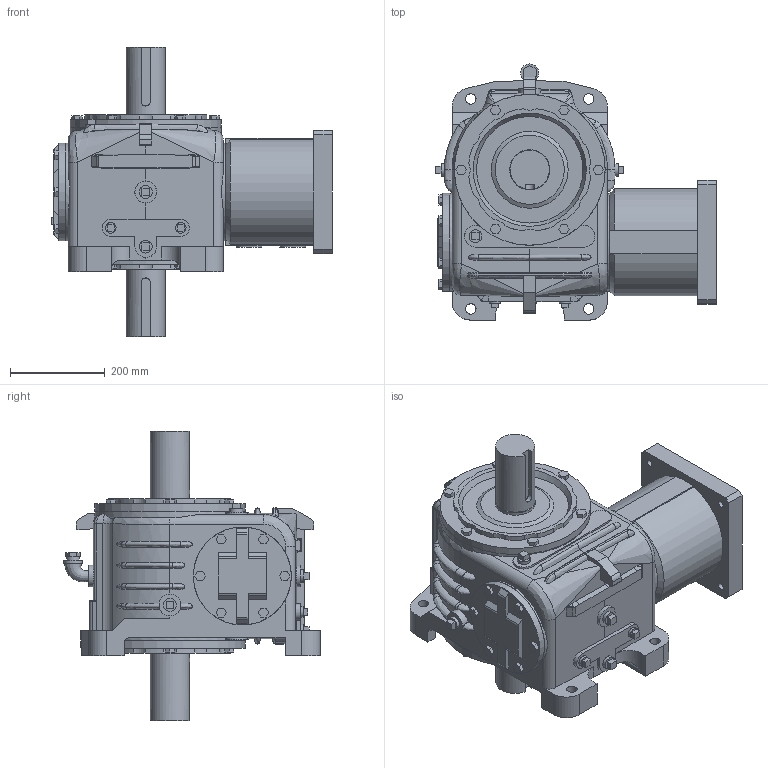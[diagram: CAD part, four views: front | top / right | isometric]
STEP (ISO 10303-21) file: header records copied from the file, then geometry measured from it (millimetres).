
FILE_DESCRIPTION(/* description */ ('Unknown'),/* implementation_level */ '2;1');
FILE_NAME(/* name */ 'V60CB-7CR11SBD-',/* time_stamp */ '2024-11-21T11:47:23-05:00',/* author */ ('Unknown'),/* organization */ ('Unknown'),/* preprocessor_version */ 'ST-DEVELOPER v19.4',/* originating_system */ 'Solid Edge',/* authorisation */ 'Unknown');
FILE_SCHEMA (('AUTOMOTIVE_DESIGN {1 0 10303 214 3 1 1}'));
Length unit declared in the file: millimetre
Products named in the file (7): V60CB-7CR11SBD-; 60-5-CP; 60-OUTS; 60-WCAP; 60-SM20-CP; MP4R-11-CP; KM600-S-48
Assembly tree (7 placements, depth 2):
  V60CB-7CR11SBD-
    60-5-CP
    60-OUTS  x2
    60-WCAP
    60-SM20-CP
    MP4R-11-CP
    KM600-S-48
Bounding box: 590.53 x 539.14 x 609.65 mm (x, y, z)
Volume: 42812317.3 mm3; surface area: 2111669.5 mm2
Topology: 7 solids, 7 shells, 719 faces, 1788 edges, 1166 vertices
Faces by surface type: plane 426, cylinder 181, bspline 103, cone 9
Full cylindrical faces by diameter (mm): 0.254 x9, 12.7 x8, 13.835 x4, 19.05 x6, 22 x4, 22.225 x2, 26.924 x6, 38.1 x1, 44.437 x1, 44.45 x1, 45.72 x4, 46.038 x1, 82.537 x2, 84.138 x2, 94.5 x1, 98.425 x1, 122 x1, 127 x1, 127.508 x1, 139 x1, 155.575 x1, 199.998 x1, 200 x1, 206.248 x3, 209.55 x1, 250 x1, 317.5 x4
Entity records: 26307 total; most frequent: CARTESIAN_POINT 10603, ORIENTED_EDGE 2968, DIRECTION 2745, EDGE_CURVE 1484, VERTEX_POINT 1003, AXIS2_PLACEMENT_3D 924, LINE 897, VECTOR 897
